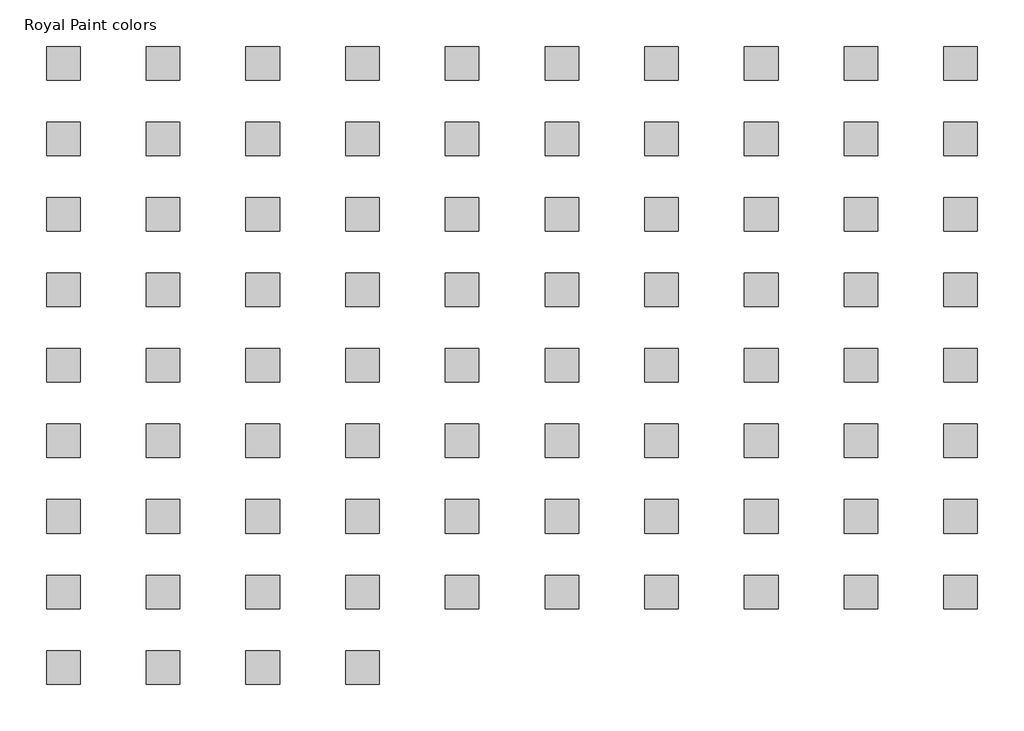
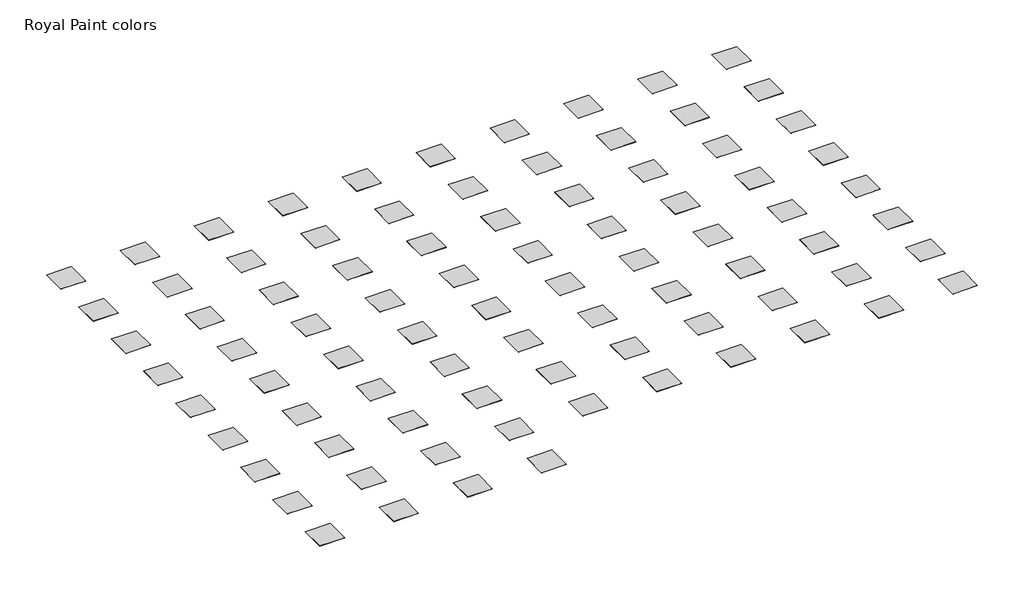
# One storey: 84 proxies.
"""IFC4 building model written with IfcOpenShell, lengths in millimetres."""

from ifc_helpers import new_model, si_unit, origin, place, context, project, spatial, transform, mapped, element, save
from components import generic_models_07b58aa4

model = new_model("IFC4")

# Units and contexts
model_context = context("Model", 3, world=origin())
ifc_project = project(units=[si_unit("LENGTHUNIT", "METRE", prefix="MILLI")], contexts=[model_context])

# Site, building, storey
site = spatial("IfcSite", under=ifc_project)
building = spatial("IfcBuilding", under=site)
storey = spatial("IfcBuildingStorey", under=building, Name="Royal Paint colors", Elevation=0.0)

# Proxies
placement = place(None, origin())
generic_models_shape = generic_models_07b58aa4(model_context)
element("IfcBuildingElementProxy", 1, Name="Loggia_Placeholder : Loggia_Placeholder", ObjectType="Loggia_Placeholder : Loggia_Placeholder", at=placement, inside=storey, context=model_context, shape_type="MappedRepresentation", body=[
    mapped(generic_models_shape, transform((0.0, 0.0, 0.0), x_axis=(1.0, 0.0, 0.0), y_axis=(0.0, 1.0, 0.0), z_axis=(0.0, 0.0, 1.0))),
])
element("IfcBuildingElementProxy", 2, Name="Loggia_Placeholder : Loggia_Placeholder", ObjectType="Loggia_Placeholder : Loggia_Placeholder", at=placement, inside=storey, context=model_context, shape_type="MappedRepresentation", body=[
    mapped(generic_models_shape, transform((603.2, 0.0, 0.0), x_axis=(1.0, 0.0, 0.0), y_axis=(0.0, 1.0, 0.0), z_axis=(0.0, 0.0, 1.0))),
])
element("IfcBuildingElementProxy", 3, Name="Loggia_Placeholder : Loggia_Placeholder", ObjectType="Loggia_Placeholder : Loggia_Placeholder", at=placement, inside=storey, context=model_context, shape_type="MappedRepresentation", body=[
    mapped(generic_models_shape, transform((1206.4, 0.0, 0.0), x_axis=(1.0, 0.0, 0.0), y_axis=(0.0, 1.0, 0.0), z_axis=(0.0, 0.0, 1.0))),
])
element("IfcBuildingElementProxy", 4, Name="Loggia_Placeholder : Loggia_Placeholder", ObjectType="Loggia_Placeholder : Loggia_Placeholder", at=placement, inside=storey, context=model_context, shape_type="MappedRepresentation", body=[
    mapped(generic_models_shape, transform((1809.6, 0.0, 0.0), x_axis=(1.0, 0.0, 0.0), y_axis=(0.0, 1.0, 0.0), z_axis=(0.0, 0.0, 1.0))),
])
element("IfcBuildingElementProxy", 5, Name="Loggia_Placeholder : Loggia_Placeholder", ObjectType="Loggia_Placeholder : Loggia_Placeholder", at=placement, inside=storey, context=model_context, shape_type="MappedRepresentation", body=[
    mapped(generic_models_shape, transform((2412.8, 0.0, 0.0), x_axis=(1.0, 0.0, 0.0), y_axis=(0.0, 1.0, 0.0), z_axis=(0.0, 0.0, 1.0))),
])
element("IfcBuildingElementProxy", 6, Name="Loggia_Placeholder : Loggia_Placeholder", ObjectType="Loggia_Placeholder : Loggia_Placeholder", at=placement, inside=storey, context=model_context, shape_type="MappedRepresentation", body=[
    mapped(generic_models_shape, transform((3016.0, 0.0, 0.0), x_axis=(1.0, 0.0, 0.0), y_axis=(0.0, 1.0, 0.0), z_axis=(0.0, 0.0, 1.0))),
])
element("IfcBuildingElementProxy", 7, Name="Loggia_Placeholder : Loggia_Placeholder", ObjectType="Loggia_Placeholder : Loggia_Placeholder", at=placement, inside=storey, context=model_context, shape_type="MappedRepresentation", body=[
    mapped(generic_models_shape, transform((3619.2, 0.0, 0.0), x_axis=(1.0, 0.0, 0.0), y_axis=(0.0, 1.0, 0.0), z_axis=(0.0, 0.0, 1.0))),
])
element("IfcBuildingElementProxy", 8, Name="Loggia_Placeholder : Loggia_Placeholder", ObjectType="Loggia_Placeholder : Loggia_Placeholder", at=placement, inside=storey, context=model_context, shape_type="MappedRepresentation", body=[
    mapped(generic_models_shape, transform((4222.4, 0.0, 0.0), x_axis=(1.0, 0.0, 0.0), y_axis=(0.0, 1.0, 0.0), z_axis=(0.0, 0.0, 1.0))),
])
element("IfcBuildingElementProxy", 9, Name="Loggia_Placeholder : Loggia_Placeholder", ObjectType="Loggia_Placeholder : Loggia_Placeholder", at=placement, inside=storey, context=model_context, shape_type="MappedRepresentation", body=[
    mapped(generic_models_shape, transform((4825.6, 0.0, 0.0), x_axis=(1.0, 0.0, 0.0), y_axis=(0.0, 1.0, 0.0), z_axis=(0.0, 0.0, 1.0))),
])
element("IfcBuildingElementProxy", 10, Name="Loggia_Placeholder : Loggia_Placeholder", ObjectType="Loggia_Placeholder : Loggia_Placeholder", at=placement, inside=storey, context=model_context, shape_type="MappedRepresentation", body=[
    mapped(generic_models_shape, transform((5428.8, 0.0, 0.0), x_axis=(1.0, 0.0, 0.0), y_axis=(0.0, 1.0, 0.0), z_axis=(0.0, 0.0, 1.0))),
])
element("IfcBuildingElementProxy", 11, Name="Loggia_Placeholder : Loggia_Placeholder", ObjectType="Loggia_Placeholder : Loggia_Placeholder", at=placement, inside=storey, context=model_context, shape_type="MappedRepresentation", body=[
    mapped(generic_models_shape, transform((0.0, -457.2, 0.0), x_axis=(1.0, 0.0, 0.0), y_axis=(0.0, 1.0, 0.0), z_axis=(0.0, 0.0, 1.0))),
])
element("IfcBuildingElementProxy", 12, Name="Loggia_Placeholder : Loggia_Placeholder", ObjectType="Loggia_Placeholder : Loggia_Placeholder", at=placement, inside=storey, context=model_context, shape_type="MappedRepresentation", body=[
    mapped(generic_models_shape, transform((603.2, -457.2, 0.0), x_axis=(1.0, 0.0, 0.0), y_axis=(0.0, 1.0, 0.0), z_axis=(0.0, 0.0, 1.0))),
])
element("IfcBuildingElementProxy", 13, Name="Loggia_Placeholder : Loggia_Placeholder", ObjectType="Loggia_Placeholder : Loggia_Placeholder", at=placement, inside=storey, context=model_context, shape_type="MappedRepresentation", body=[
    mapped(generic_models_shape, transform((1206.4, -457.2, 0.0), x_axis=(1.0, 0.0, 0.0), y_axis=(0.0, 1.0, 0.0), z_axis=(0.0, 0.0, 1.0))),
])
element("IfcBuildingElementProxy", 14, Name="Loggia_Placeholder : Loggia_Placeholder", ObjectType="Loggia_Placeholder : Loggia_Placeholder", at=placement, inside=storey, context=model_context, shape_type="MappedRepresentation", body=[
    mapped(generic_models_shape, transform((1809.6, -457.2, 0.0), x_axis=(1.0, 0.0, 0.0), y_axis=(0.0, 1.0, 0.0), z_axis=(0.0, 0.0, 1.0))),
])
element("IfcBuildingElementProxy", 15, Name="Loggia_Placeholder : Loggia_Placeholder", ObjectType="Loggia_Placeholder : Loggia_Placeholder", at=placement, inside=storey, context=model_context, shape_type="MappedRepresentation", body=[
    mapped(generic_models_shape, transform((2412.8, -457.2, 0.0), x_axis=(1.0, 0.0, 0.0), y_axis=(0.0, 1.0, 0.0), z_axis=(0.0, 0.0, 1.0))),
])
element("IfcBuildingElementProxy", 16, Name="Loggia_Placeholder : Loggia_Placeholder", ObjectType="Loggia_Placeholder : Loggia_Placeholder", at=placement, inside=storey, context=model_context, shape_type="MappedRepresentation", body=[
    mapped(generic_models_shape, transform((3016.0, -457.2, 0.0), x_axis=(1.0, 0.0, 0.0), y_axis=(0.0, 1.0, 0.0), z_axis=(0.0, 0.0, 1.0))),
])
element("IfcBuildingElementProxy", 17, Name="Loggia_Placeholder : Loggia_Placeholder", ObjectType="Loggia_Placeholder : Loggia_Placeholder", at=placement, inside=storey, context=model_context, shape_type="MappedRepresentation", body=[
    mapped(generic_models_shape, transform((3619.2, -457.2, 0.0), x_axis=(1.0, 0.0, 0.0), y_axis=(0.0, 1.0, 0.0), z_axis=(0.0, 0.0, 1.0))),
])
element("IfcBuildingElementProxy", 18, Name="Loggia_Placeholder : Loggia_Placeholder", ObjectType="Loggia_Placeholder : Loggia_Placeholder", at=placement, inside=storey, context=model_context, shape_type="MappedRepresentation", body=[
    mapped(generic_models_shape, transform((4222.4, -457.2, 0.0), x_axis=(1.0, 0.0, 0.0), y_axis=(0.0, 1.0, 0.0), z_axis=(0.0, 0.0, 1.0))),
])
element("IfcBuildingElementProxy", 19, Name="Loggia_Placeholder : Loggia_Placeholder", ObjectType="Loggia_Placeholder : Loggia_Placeholder", at=placement, inside=storey, context=model_context, shape_type="MappedRepresentation", body=[
    mapped(generic_models_shape, transform((4825.6, -457.2, 0.0), x_axis=(1.0, 0.0, 0.0), y_axis=(0.0, 1.0, 0.0), z_axis=(0.0, 0.0, 1.0))),
])
element("IfcBuildingElementProxy", 20, Name="Loggia_Placeholder : Loggia_Placeholder", ObjectType="Loggia_Placeholder : Loggia_Placeholder", at=placement, inside=storey, context=model_context, shape_type="MappedRepresentation", body=[
    mapped(generic_models_shape, transform((5428.8, -457.2, 0.0), x_axis=(1.0, 0.0, 0.0), y_axis=(0.0, 1.0, 0.0), z_axis=(0.0, 0.0, 1.0))),
])
element("IfcBuildingElementProxy", 21, Name="Loggia_Placeholder : Loggia_Placeholder", ObjectType="Loggia_Placeholder : Loggia_Placeholder", at=placement, inside=storey, context=model_context, shape_type="MappedRepresentation", body=[
    mapped(generic_models_shape, transform((0.0, -914.4, 0.0), x_axis=(1.0, 0.0, 0.0), y_axis=(0.0, 1.0, 0.0), z_axis=(0.0, 0.0, 1.0))),
])
element("IfcBuildingElementProxy", 22, Name="Loggia_Placeholder : Loggia_Placeholder", ObjectType="Loggia_Placeholder : Loggia_Placeholder", at=placement, inside=storey, context=model_context, shape_type="MappedRepresentation", body=[
    mapped(generic_models_shape, transform((603.2, -914.4, 0.0), x_axis=(1.0, 0.0, 0.0), y_axis=(0.0, 1.0, 0.0), z_axis=(0.0, 0.0, 1.0))),
])
element("IfcBuildingElementProxy", 23, Name="Loggia_Placeholder : Loggia_Placeholder", ObjectType="Loggia_Placeholder : Loggia_Placeholder", at=placement, inside=storey, context=model_context, shape_type="MappedRepresentation", body=[
    mapped(generic_models_shape, transform((1206.4, -914.4, 0.0), x_axis=(1.0, 0.0, 0.0), y_axis=(0.0, 1.0, 0.0), z_axis=(0.0, 0.0, 1.0))),
])
element("IfcBuildingElementProxy", 24, Name="Loggia_Placeholder : Loggia_Placeholder", ObjectType="Loggia_Placeholder : Loggia_Placeholder", at=placement, inside=storey, context=model_context, shape_type="MappedRepresentation", body=[
    mapped(generic_models_shape, transform((1809.6, -914.4, 0.0), x_axis=(1.0, 0.0, 0.0), y_axis=(0.0, 1.0, 0.0), z_axis=(0.0, 0.0, 1.0))),
])
element("IfcBuildingElementProxy", 25, Name="Loggia_Placeholder : Loggia_Placeholder", ObjectType="Loggia_Placeholder : Loggia_Placeholder", at=placement, inside=storey, context=model_context, shape_type="MappedRepresentation", body=[
    mapped(generic_models_shape, transform((2412.8, -914.4, 0.0), x_axis=(1.0, 0.0, 0.0), y_axis=(0.0, 1.0, 0.0), z_axis=(0.0, 0.0, 1.0))),
])
element("IfcBuildingElementProxy", 26, Name="Loggia_Placeholder : Loggia_Placeholder", ObjectType="Loggia_Placeholder : Loggia_Placeholder", at=placement, inside=storey, context=model_context, shape_type="MappedRepresentation", body=[
    mapped(generic_models_shape, transform((3016.0, -914.4, 0.0), x_axis=(1.0, 0.0, 0.0), y_axis=(0.0, 1.0, 0.0), z_axis=(0.0, 0.0, 1.0))),
])
element("IfcBuildingElementProxy", 27, Name="Loggia_Placeholder : Loggia_Placeholder", ObjectType="Loggia_Placeholder : Loggia_Placeholder", at=placement, inside=storey, context=model_context, shape_type="MappedRepresentation", body=[
    mapped(generic_models_shape, transform((3619.2, -914.4, 0.0), x_axis=(1.0, 0.0, 0.0), y_axis=(0.0, 1.0, 0.0), z_axis=(0.0, 0.0, 1.0))),
])
element("IfcBuildingElementProxy", 28, Name="Loggia_Placeholder : Loggia_Placeholder", ObjectType="Loggia_Placeholder : Loggia_Placeholder", at=placement, inside=storey, context=model_context, shape_type="MappedRepresentation", body=[
    mapped(generic_models_shape, transform((4222.4, -914.4, 0.0), x_axis=(1.0, 0.0, 0.0), y_axis=(0.0, 1.0, 0.0), z_axis=(0.0, 0.0, 1.0))),
])
element("IfcBuildingElementProxy", 29, Name="Loggia_Placeholder : Loggia_Placeholder", ObjectType="Loggia_Placeholder : Loggia_Placeholder", at=placement, inside=storey, context=model_context, shape_type="MappedRepresentation", body=[
    mapped(generic_models_shape, transform((4825.6, -914.4, 0.0), x_axis=(1.0, 0.0, 0.0), y_axis=(0.0, 1.0, 0.0), z_axis=(0.0, 0.0, 1.0))),
])
element("IfcBuildingElementProxy", 30, Name="Loggia_Placeholder : Loggia_Placeholder", ObjectType="Loggia_Placeholder : Loggia_Placeholder", at=placement, inside=storey, context=model_context, shape_type="MappedRepresentation", body=[
    mapped(generic_models_shape, transform((5428.8, -914.4, 0.0), x_axis=(1.0, 0.0, 0.0), y_axis=(0.0, 1.0, 0.0), z_axis=(0.0, 0.0, 1.0))),
])
element("IfcBuildingElementProxy", 31, Name="Loggia_Placeholder : Loggia_Placeholder", ObjectType="Loggia_Placeholder : Loggia_Placeholder", at=placement, inside=storey, context=model_context, shape_type="MappedRepresentation", body=[
    mapped(generic_models_shape, transform((0.0, -1371.6, 0.0), x_axis=(1.0, 0.0, 0.0), y_axis=(0.0, 1.0, 0.0), z_axis=(0.0, 0.0, 1.0))),
])
element("IfcBuildingElementProxy", 32, Name="Loggia_Placeholder : Loggia_Placeholder", ObjectType="Loggia_Placeholder : Loggia_Placeholder", at=placement, inside=storey, context=model_context, shape_type="MappedRepresentation", body=[
    mapped(generic_models_shape, transform((603.2, -1371.6, 0.0), x_axis=(1.0, 0.0, 0.0), y_axis=(0.0, 1.0, 0.0), z_axis=(0.0, 0.0, 1.0))),
])
element("IfcBuildingElementProxy", 33, Name="Loggia_Placeholder : Loggia_Placeholder", ObjectType="Loggia_Placeholder : Loggia_Placeholder", at=placement, inside=storey, context=model_context, shape_type="MappedRepresentation", body=[
    mapped(generic_models_shape, transform((1206.4, -1371.6, 0.0), x_axis=(1.0, 0.0, 0.0), y_axis=(0.0, 1.0, 0.0), z_axis=(0.0, 0.0, 1.0))),
])
element("IfcBuildingElementProxy", 34, Name="Loggia_Placeholder : Loggia_Placeholder", ObjectType="Loggia_Placeholder : Loggia_Placeholder", at=placement, inside=storey, context=model_context, shape_type="MappedRepresentation", body=[
    mapped(generic_models_shape, transform((1809.6, -1371.6, 0.0), x_axis=(1.0, 0.0, 0.0), y_axis=(0.0, 1.0, 0.0), z_axis=(0.0, 0.0, 1.0))),
])
element("IfcBuildingElementProxy", 35, Name="Loggia_Placeholder : Loggia_Placeholder", ObjectType="Loggia_Placeholder : Loggia_Placeholder", at=placement, inside=storey, context=model_context, shape_type="MappedRepresentation", body=[
    mapped(generic_models_shape, transform((2412.8, -1371.6, 0.0), x_axis=(1.0, 0.0, 0.0), y_axis=(0.0, 1.0, 0.0), z_axis=(0.0, 0.0, 1.0))),
])
element("IfcBuildingElementProxy", 36, Name="Loggia_Placeholder : Loggia_Placeholder", ObjectType="Loggia_Placeholder : Loggia_Placeholder", at=placement, inside=storey, context=model_context, shape_type="MappedRepresentation", body=[
    mapped(generic_models_shape, transform((3016.0, -1371.6, 0.0), x_axis=(1.0, 0.0, 0.0), y_axis=(0.0, 1.0, 0.0), z_axis=(0.0, 0.0, 1.0))),
])
element("IfcBuildingElementProxy", 37, Name="Loggia_Placeholder : Loggia_Placeholder", ObjectType="Loggia_Placeholder : Loggia_Placeholder", at=placement, inside=storey, context=model_context, shape_type="MappedRepresentation", body=[
    mapped(generic_models_shape, transform((3619.2, -1371.6, 0.0), x_axis=(1.0, 0.0, 0.0), y_axis=(0.0, 1.0, 0.0), z_axis=(0.0, 0.0, 1.0))),
])
element("IfcBuildingElementProxy", 38, Name="Loggia_Placeholder : Loggia_Placeholder", ObjectType="Loggia_Placeholder : Loggia_Placeholder", at=placement, inside=storey, context=model_context, shape_type="MappedRepresentation", body=[
    mapped(generic_models_shape, transform((4222.4, -1371.6, 0.0), x_axis=(1.0, 0.0, 0.0), y_axis=(0.0, 1.0, 0.0), z_axis=(0.0, 0.0, 1.0))),
])
element("IfcBuildingElementProxy", 39, Name="Loggia_Placeholder : Loggia_Placeholder", ObjectType="Loggia_Placeholder : Loggia_Placeholder", at=placement, inside=storey, context=model_context, shape_type="MappedRepresentation", body=[
    mapped(generic_models_shape, transform((4825.6, -1371.6, 0.0), x_axis=(1.0, 0.0, 0.0), y_axis=(0.0, 1.0, 0.0), z_axis=(0.0, 0.0, 1.0))),
])
element("IfcBuildingElementProxy", 40, Name="Loggia_Placeholder : Loggia_Placeholder", ObjectType="Loggia_Placeholder : Loggia_Placeholder", at=placement, inside=storey, context=model_context, shape_type="MappedRepresentation", body=[
    mapped(generic_models_shape, transform((5428.8, -1371.6, 0.0), x_axis=(1.0, 0.0, 0.0), y_axis=(0.0, 1.0, 0.0), z_axis=(0.0, 0.0, 1.0))),
])
element("IfcBuildingElementProxy", 41, Name="Loggia_Placeholder : Loggia_Placeholder", ObjectType="Loggia_Placeholder : Loggia_Placeholder", at=placement, inside=storey, context=model_context, shape_type="MappedRepresentation", body=[
    mapped(generic_models_shape, transform((0.0, -1828.8, 0.0), x_axis=(1.0, 0.0, 0.0), y_axis=(0.0, 1.0, 0.0), z_axis=(0.0, 0.0, 1.0))),
])
element("IfcBuildingElementProxy", 42, Name="Loggia_Placeholder : Loggia_Placeholder", ObjectType="Loggia_Placeholder : Loggia_Placeholder", at=placement, inside=storey, context=model_context, shape_type="MappedRepresentation", body=[
    mapped(generic_models_shape, transform((603.2, -1828.8, 0.0), x_axis=(1.0, 0.0, 0.0), y_axis=(0.0, 1.0, 0.0), z_axis=(0.0, 0.0, 1.0))),
])
element("IfcBuildingElementProxy", 43, Name="Loggia_Placeholder : Loggia_Placeholder", ObjectType="Loggia_Placeholder : Loggia_Placeholder", at=placement, inside=storey, context=model_context, shape_type="MappedRepresentation", body=[
    mapped(generic_models_shape, transform((1206.4, -1828.8, 0.0), x_axis=(1.0, 0.0, 0.0), y_axis=(0.0, 1.0, 0.0), z_axis=(0.0, 0.0, 1.0))),
])
element("IfcBuildingElementProxy", 44, Name="Loggia_Placeholder : Loggia_Placeholder", ObjectType="Loggia_Placeholder : Loggia_Placeholder", at=placement, inside=storey, context=model_context, shape_type="MappedRepresentation", body=[
    mapped(generic_models_shape, transform((1809.6, -1828.8, 0.0), x_axis=(1.0, 0.0, 0.0), y_axis=(0.0, 1.0, 0.0), z_axis=(0.0, 0.0, 1.0))),
])
element("IfcBuildingElementProxy", 45, Name="Loggia_Placeholder : Loggia_Placeholder", ObjectType="Loggia_Placeholder : Loggia_Placeholder", at=placement, inside=storey, context=model_context, shape_type="MappedRepresentation", body=[
    mapped(generic_models_shape, transform((2412.8, -1828.8, 0.0), x_axis=(1.0, 0.0, 0.0), y_axis=(0.0, 1.0, 0.0), z_axis=(0.0, 0.0, 1.0))),
])
element("IfcBuildingElementProxy", 46, Name="Loggia_Placeholder : Loggia_Placeholder", ObjectType="Loggia_Placeholder : Loggia_Placeholder", at=placement, inside=storey, context=model_context, shape_type="MappedRepresentation", body=[
    mapped(generic_models_shape, transform((3016.0, -1828.8, 0.0), x_axis=(1.0, 0.0, 0.0), y_axis=(0.0, 1.0, 0.0), z_axis=(0.0, 0.0, 1.0))),
])
element("IfcBuildingElementProxy", 47, Name="Loggia_Placeholder : Loggia_Placeholder", ObjectType="Loggia_Placeholder : Loggia_Placeholder", at=placement, inside=storey, context=model_context, shape_type="MappedRepresentation", body=[
    mapped(generic_models_shape, transform((3619.2, -1828.8, 0.0), x_axis=(1.0, 0.0, 0.0), y_axis=(0.0, 1.0, 0.0), z_axis=(0.0, 0.0, 1.0))),
])
element("IfcBuildingElementProxy", 48, Name="Loggia_Placeholder : Loggia_Placeholder", ObjectType="Loggia_Placeholder : Loggia_Placeholder", at=placement, inside=storey, context=model_context, shape_type="MappedRepresentation", body=[
    mapped(generic_models_shape, transform((4222.4, -1828.8, 0.0), x_axis=(1.0, 0.0, 0.0), y_axis=(0.0, 1.0, 0.0), z_axis=(0.0, 0.0, 1.0))),
])
element("IfcBuildingElementProxy", 49, Name="Loggia_Placeholder : Loggia_Placeholder", ObjectType="Loggia_Placeholder : Loggia_Placeholder", at=placement, inside=storey, context=model_context, shape_type="MappedRepresentation", body=[
    mapped(generic_models_shape, transform((4825.6, -1828.8, 0.0), x_axis=(1.0, 0.0, 0.0), y_axis=(0.0, 1.0, 0.0), z_axis=(0.0, 0.0, 1.0))),
])
element("IfcBuildingElementProxy", 50, Name="Loggia_Placeholder : Loggia_Placeholder", ObjectType="Loggia_Placeholder : Loggia_Placeholder", at=placement, inside=storey, context=model_context, shape_type="MappedRepresentation", body=[
    mapped(generic_models_shape, transform((5428.8, -1828.8, 0.0), x_axis=(1.0, 0.0, 0.0), y_axis=(0.0, 1.0, 0.0), z_axis=(0.0, 0.0, 1.0))),
])
element("IfcBuildingElementProxy", 51, Name="Loggia_Placeholder : Loggia_Placeholder", ObjectType="Loggia_Placeholder : Loggia_Placeholder", at=placement, inside=storey, context=model_context, shape_type="MappedRepresentation", body=[
    mapped(generic_models_shape, transform((0.0, -2286.0, 0.0), x_axis=(1.0, 0.0, 0.0), y_axis=(0.0, 1.0, 0.0), z_axis=(0.0, 0.0, 1.0))),
])
element("IfcBuildingElementProxy", 52, Name="Loggia_Placeholder : Loggia_Placeholder", ObjectType="Loggia_Placeholder : Loggia_Placeholder", at=placement, inside=storey, context=model_context, shape_type="MappedRepresentation", body=[
    mapped(generic_models_shape, transform((603.2, -2286.0, 0.0), x_axis=(1.0, 0.0, 0.0), y_axis=(0.0, 1.0, 0.0), z_axis=(0.0, 0.0, 1.0))),
])
element("IfcBuildingElementProxy", 53, Name="Loggia_Placeholder : Loggia_Placeholder", ObjectType="Loggia_Placeholder : Loggia_Placeholder", at=placement, inside=storey, context=model_context, shape_type="MappedRepresentation", body=[
    mapped(generic_models_shape, transform((1206.4, -2286.0, 0.0), x_axis=(1.0, 0.0, 0.0), y_axis=(0.0, 1.0, 0.0), z_axis=(0.0, 0.0, 1.0))),
])
element("IfcBuildingElementProxy", 54, Name="Loggia_Placeholder : Loggia_Placeholder", ObjectType="Loggia_Placeholder : Loggia_Placeholder", at=placement, inside=storey, context=model_context, shape_type="MappedRepresentation", body=[
    mapped(generic_models_shape, transform((1809.6, -2286.0, 0.0), x_axis=(1.0, 0.0, 0.0), y_axis=(0.0, 1.0, 0.0), z_axis=(0.0, 0.0, 1.0))),
])
element("IfcBuildingElementProxy", 55, Name="Loggia_Placeholder : Loggia_Placeholder", ObjectType="Loggia_Placeholder : Loggia_Placeholder", at=placement, inside=storey, context=model_context, shape_type="MappedRepresentation", body=[
    mapped(generic_models_shape, transform((2412.8, -2286.0, 0.0), x_axis=(1.0, 0.0, 0.0), y_axis=(0.0, 1.0, 0.0), z_axis=(0.0, 0.0, 1.0))),
])
element("IfcBuildingElementProxy", 56, Name="Loggia_Placeholder : Loggia_Placeholder", ObjectType="Loggia_Placeholder : Loggia_Placeholder", at=placement, inside=storey, context=model_context, shape_type="MappedRepresentation", body=[
    mapped(generic_models_shape, transform((3016.0, -2286.0, 0.0), x_axis=(1.0, 0.0, 0.0), y_axis=(0.0, 1.0, 0.0), z_axis=(0.0, 0.0, 1.0))),
])
element("IfcBuildingElementProxy", 57, Name="Loggia_Placeholder : Loggia_Placeholder", ObjectType="Loggia_Placeholder : Loggia_Placeholder", at=placement, inside=storey, context=model_context, shape_type="MappedRepresentation", body=[
    mapped(generic_models_shape, transform((3619.2, -2286.0, 0.0), x_axis=(1.0, 0.0, 0.0), y_axis=(0.0, 1.0, 0.0), z_axis=(0.0, 0.0, 1.0))),
])
element("IfcBuildingElementProxy", 58, Name="Loggia_Placeholder : Loggia_Placeholder", ObjectType="Loggia_Placeholder : Loggia_Placeholder", at=placement, inside=storey, context=model_context, shape_type="MappedRepresentation", body=[
    mapped(generic_models_shape, transform((4222.4, -2286.0, 0.0), x_axis=(1.0, 0.0, 0.0), y_axis=(0.0, 1.0, 0.0), z_axis=(0.0, 0.0, 1.0))),
])
element("IfcBuildingElementProxy", 59, Name="Loggia_Placeholder : Loggia_Placeholder", ObjectType="Loggia_Placeholder : Loggia_Placeholder", at=placement, inside=storey, context=model_context, shape_type="MappedRepresentation", body=[
    mapped(generic_models_shape, transform((4825.6, -2286.0, 0.0), x_axis=(1.0, 0.0, 0.0), y_axis=(0.0, 1.0, 0.0), z_axis=(0.0, 0.0, 1.0))),
])
element("IfcBuildingElementProxy", 60, Name="Loggia_Placeholder : Loggia_Placeholder", ObjectType="Loggia_Placeholder : Loggia_Placeholder", at=placement, inside=storey, context=model_context, shape_type="MappedRepresentation", body=[
    mapped(generic_models_shape, transform((5428.8, -2286.0, 0.0), x_axis=(1.0, 0.0, 0.0), y_axis=(0.0, 1.0, 0.0), z_axis=(0.0, 0.0, 1.0))),
])
element("IfcBuildingElementProxy", 61, Name="Loggia_Placeholder : Loggia_Placeholder", ObjectType="Loggia_Placeholder : Loggia_Placeholder", at=placement, inside=storey, context=model_context, shape_type="MappedRepresentation", body=[
    mapped(generic_models_shape, transform((0.0, -2743.2, 0.0), x_axis=(1.0, 0.0, 0.0), y_axis=(0.0, 1.0, 0.0), z_axis=(0.0, 0.0, 1.0))),
])
element("IfcBuildingElementProxy", 62, Name="Loggia_Placeholder : Loggia_Placeholder", ObjectType="Loggia_Placeholder : Loggia_Placeholder", at=placement, inside=storey, context=model_context, shape_type="MappedRepresentation", body=[
    mapped(generic_models_shape, transform((603.2, -2743.2, 0.0), x_axis=(1.0, 0.0, 0.0), y_axis=(0.0, 1.0, 0.0), z_axis=(0.0, 0.0, 1.0))),
])
element("IfcBuildingElementProxy", 63, Name="Loggia_Placeholder : Loggia_Placeholder", ObjectType="Loggia_Placeholder : Loggia_Placeholder", at=placement, inside=storey, context=model_context, shape_type="MappedRepresentation", body=[
    mapped(generic_models_shape, transform((1206.4, -2743.2, 0.0), x_axis=(1.0, 0.0, 0.0), y_axis=(0.0, 1.0, 0.0), z_axis=(0.0, 0.0, 1.0))),
])
element("IfcBuildingElementProxy", 64, Name="Loggia_Placeholder : Loggia_Placeholder", ObjectType="Loggia_Placeholder : Loggia_Placeholder", at=placement, inside=storey, context=model_context, shape_type="MappedRepresentation", body=[
    mapped(generic_models_shape, transform((1809.6, -2743.2, 0.0), x_axis=(1.0, 0.0, 0.0), y_axis=(0.0, 1.0, 0.0), z_axis=(0.0, 0.0, 1.0))),
])
element("IfcBuildingElementProxy", 65, Name="Loggia_Placeholder : Loggia_Placeholder", ObjectType="Loggia_Placeholder : Loggia_Placeholder", at=placement, inside=storey, context=model_context, shape_type="MappedRepresentation", body=[
    mapped(generic_models_shape, transform((2412.8, -2743.2, 0.0), x_axis=(1.0, 0.0, 0.0), y_axis=(0.0, 1.0, 0.0), z_axis=(0.0, 0.0, 1.0))),
])
element("IfcBuildingElementProxy", 66, Name="Loggia_Placeholder : Loggia_Placeholder", ObjectType="Loggia_Placeholder : Loggia_Placeholder", at=placement, inside=storey, context=model_context, shape_type="MappedRepresentation", body=[
    mapped(generic_models_shape, transform((3016.0, -2743.2, 0.0), x_axis=(1.0, 0.0, 0.0), y_axis=(0.0, 1.0, 0.0), z_axis=(0.0, 0.0, 1.0))),
])
element("IfcBuildingElementProxy", 67, Name="Loggia_Placeholder : Loggia_Placeholder", ObjectType="Loggia_Placeholder : Loggia_Placeholder", at=placement, inside=storey, context=model_context, shape_type="MappedRepresentation", body=[
    mapped(generic_models_shape, transform((3619.2, -2743.2, 0.0), x_axis=(1.0, 0.0, 0.0), y_axis=(0.0, 1.0, 0.0), z_axis=(0.0, 0.0, 1.0))),
])
element("IfcBuildingElementProxy", 68, Name="Loggia_Placeholder : Loggia_Placeholder", ObjectType="Loggia_Placeholder : Loggia_Placeholder", at=placement, inside=storey, context=model_context, shape_type="MappedRepresentation", body=[
    mapped(generic_models_shape, transform((4222.4, -2743.2, 0.0), x_axis=(1.0, 0.0, 0.0), y_axis=(0.0, 1.0, 0.0), z_axis=(0.0, 0.0, 1.0))),
])
element("IfcBuildingElementProxy", 69, Name="Loggia_Placeholder : Loggia_Placeholder", ObjectType="Loggia_Placeholder : Loggia_Placeholder", at=placement, inside=storey, context=model_context, shape_type="MappedRepresentation", body=[
    mapped(generic_models_shape, transform((4825.6, -2743.2, 0.0), x_axis=(1.0, 0.0, 0.0), y_axis=(0.0, 1.0, 0.0), z_axis=(0.0, 0.0, 1.0))),
])
element("IfcBuildingElementProxy", 70, Name="Loggia_Placeholder : Loggia_Placeholder", ObjectType="Loggia_Placeholder : Loggia_Placeholder", at=placement, inside=storey, context=model_context, shape_type="MappedRepresentation", body=[
    mapped(generic_models_shape, transform((5428.8, -2743.2, 0.0), x_axis=(1.0, 0.0, 0.0), y_axis=(0.0, 1.0, 0.0), z_axis=(0.0, 0.0, 1.0))),
])
element("IfcBuildingElementProxy", 71, Name="Loggia_Placeholder : Loggia_Placeholder", ObjectType="Loggia_Placeholder : Loggia_Placeholder", at=placement, inside=storey, context=model_context, shape_type="MappedRepresentation", body=[
    mapped(generic_models_shape, transform((0.0, -3200.4, 0.0), x_axis=(1.0, 0.0, 0.0), y_axis=(0.0, 1.0, 0.0), z_axis=(0.0, 0.0, 1.0))),
])
element("IfcBuildingElementProxy", 72, Name="Loggia_Placeholder : Loggia_Placeholder", ObjectType="Loggia_Placeholder : Loggia_Placeholder", at=placement, inside=storey, context=model_context, shape_type="MappedRepresentation", body=[
    mapped(generic_models_shape, transform((603.2, -3200.4, 0.0), x_axis=(1.0, 0.0, 0.0), y_axis=(0.0, 1.0, 0.0), z_axis=(0.0, 0.0, 1.0))),
])
element("IfcBuildingElementProxy", 73, Name="Loggia_Placeholder : Loggia_Placeholder", ObjectType="Loggia_Placeholder : Loggia_Placeholder", at=placement, inside=storey, context=model_context, shape_type="MappedRepresentation", body=[
    mapped(generic_models_shape, transform((1206.4, -3200.4, 0.0), x_axis=(1.0, 0.0, 0.0), y_axis=(0.0, 1.0, 0.0), z_axis=(0.0, 0.0, 1.0))),
])
element("IfcBuildingElementProxy", 74, Name="Loggia_Placeholder : Loggia_Placeholder", ObjectType="Loggia_Placeholder : Loggia_Placeholder", at=placement, inside=storey, context=model_context, shape_type="MappedRepresentation", body=[
    mapped(generic_models_shape, transform((1809.6, -3200.4, 0.0), x_axis=(1.0, 0.0, 0.0), y_axis=(0.0, 1.0, 0.0), z_axis=(0.0, 0.0, 1.0))),
])
element("IfcBuildingElementProxy", 75, Name="Loggia_Placeholder : Loggia_Placeholder", ObjectType="Loggia_Placeholder : Loggia_Placeholder", at=placement, inside=storey, context=model_context, shape_type="MappedRepresentation", body=[
    mapped(generic_models_shape, transform((2412.8, -3200.4, 0.0), x_axis=(1.0, 0.0, 0.0), y_axis=(0.0, 1.0, 0.0), z_axis=(0.0, 0.0, 1.0))),
])
element("IfcBuildingElementProxy", 76, Name="Loggia_Placeholder : Loggia_Placeholder", ObjectType="Loggia_Placeholder : Loggia_Placeholder", at=placement, inside=storey, context=model_context, shape_type="MappedRepresentation", body=[
    mapped(generic_models_shape, transform((3016.0, -3200.4, 0.0), x_axis=(1.0, 0.0, 0.0), y_axis=(0.0, 1.0, 0.0), z_axis=(0.0, 0.0, 1.0))),
])
element("IfcBuildingElementProxy", 77, Name="Loggia_Placeholder : Loggia_Placeholder", ObjectType="Loggia_Placeholder : Loggia_Placeholder", at=placement, inside=storey, context=model_context, shape_type="MappedRepresentation", body=[
    mapped(generic_models_shape, transform((3619.2, -3200.4, 0.0), x_axis=(1.0, 0.0, 0.0), y_axis=(0.0, 1.0, 0.0), z_axis=(0.0, 0.0, 1.0))),
])
element("IfcBuildingElementProxy", 78, Name="Loggia_Placeholder : Loggia_Placeholder", ObjectType="Loggia_Placeholder : Loggia_Placeholder", at=placement, inside=storey, context=model_context, shape_type="MappedRepresentation", body=[
    mapped(generic_models_shape, transform((4222.4, -3200.4, 0.0), x_axis=(1.0, 0.0, 0.0), y_axis=(0.0, 1.0, 0.0), z_axis=(0.0, 0.0, 1.0))),
])
element("IfcBuildingElementProxy", 79, Name="Loggia_Placeholder : Loggia_Placeholder", ObjectType="Loggia_Placeholder : Loggia_Placeholder", at=placement, inside=storey, context=model_context, shape_type="MappedRepresentation", body=[
    mapped(generic_models_shape, transform((4825.6, -3200.4, 0.0), x_axis=(1.0, 0.0, 0.0), y_axis=(0.0, 1.0, 0.0), z_axis=(0.0, 0.0, 1.0))),
])
element("IfcBuildingElementProxy", 80, Name="Loggia_Placeholder : Loggia_Placeholder", ObjectType="Loggia_Placeholder : Loggia_Placeholder", at=placement, inside=storey, context=model_context, shape_type="MappedRepresentation", body=[
    mapped(generic_models_shape, transform((5428.8, -3200.4, 0.0), x_axis=(1.0, 0.0, 0.0), y_axis=(0.0, 1.0, 0.0), z_axis=(0.0, 0.0, 1.0))),
])
element("IfcBuildingElementProxy", 81, Name="Loggia_Placeholder : Loggia_Placeholder", ObjectType="Loggia_Placeholder : Loggia_Placeholder", at=placement, inside=storey, context=model_context, shape_type="MappedRepresentation", body=[
    mapped(generic_models_shape, transform((0.0, -3657.6, 0.0), x_axis=(1.0, 0.0, 0.0), y_axis=(0.0, 1.0, 0.0), z_axis=(0.0, 0.0, 1.0))),
])
element("IfcBuildingElementProxy", 82, Name="Loggia_Placeholder : Loggia_Placeholder", ObjectType="Loggia_Placeholder : Loggia_Placeholder", at=placement, inside=storey, context=model_context, shape_type="MappedRepresentation", body=[
    mapped(generic_models_shape, transform((603.2, -3657.6, 0.0), x_axis=(1.0, 0.0, 0.0), y_axis=(0.0, 1.0, 0.0), z_axis=(0.0, 0.0, 1.0))),
])
element("IfcBuildingElementProxy", 83, Name="Loggia_Placeholder : Loggia_Placeholder", ObjectType="Loggia_Placeholder : Loggia_Placeholder", at=placement, inside=storey, context=model_context, shape_type="MappedRepresentation", body=[
    mapped(generic_models_shape, transform((1206.4, -3657.6, 0.0), x_axis=(1.0, 0.0, 0.0), y_axis=(0.0, 1.0, 0.0), z_axis=(0.0, 0.0, 1.0))),
])
element("IfcBuildingElementProxy", 84, Name="Loggia_Placeholder : Loggia_Placeholder", ObjectType="Loggia_Placeholder : Loggia_Placeholder", at=placement, inside=storey, context=model_context, shape_type="MappedRepresentation", body=[
    mapped(generic_models_shape, transform((1809.6, -3657.6, 0.0), x_axis=(1.0, 0.0, 0.0), y_axis=(0.0, 1.0, 0.0), z_axis=(0.0, 0.0, 1.0))),
])

save(model, "model.ifc")
